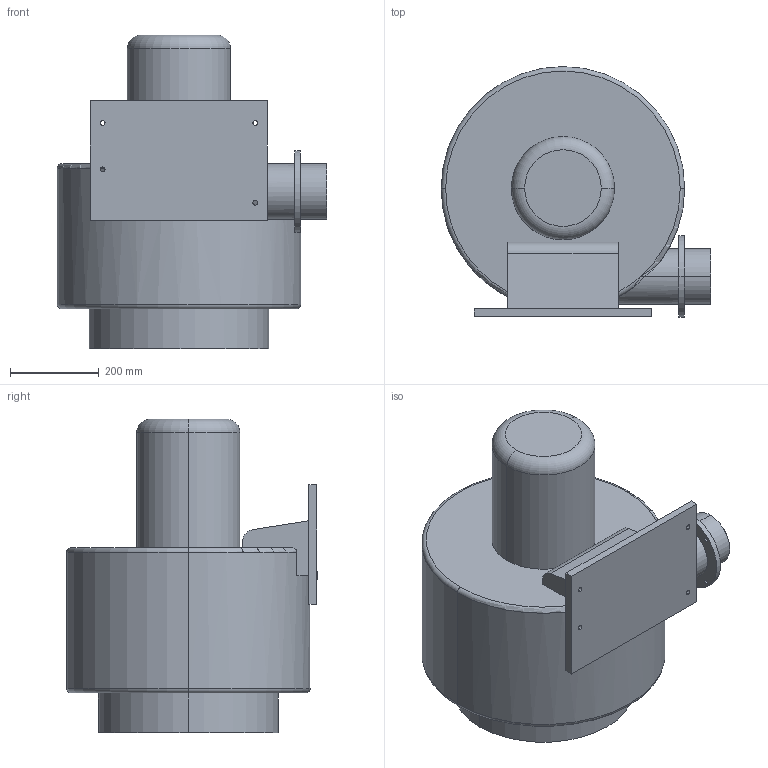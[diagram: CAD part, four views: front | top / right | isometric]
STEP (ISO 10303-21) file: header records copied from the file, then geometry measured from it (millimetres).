
FILE_DESCRIPTION (( 'STEP AP203' ), '1' );
FILE_NAME ('5500-125-4.STEP', '2019-05-09T03:27:21', ( 'User' ), ( 'www.dadighost.com' ), 'SwSTEP 2.0', 'SolidWorks 2014', '' );
FILE_SCHEMA (( 'CONFIG_CONTROL_DESIGN' ));
Length unit declared in the file: millimetre
Products named in the file (1): 5500-125-4
Bounding box: 609 x 566.5 x 708 mm (x, y, z)
Volume: 105814792.1 mm3; surface area: 1708540.2 mm2
Topology: 1 solids, 1 shells, 63 faces, 160 edges, 104 vertices
Faces by surface type: cylinder 33, plane 21, torus 9
Entity records: 2363 total; most frequent: CARTESIAN_POINT 675, DIRECTION 357, ORIENTED_EDGE 320, EDGE_CURVE 160, AXIS2_PLACEMENT_3D 145, VERTEX_POINT 104, EDGE_LOOP 84, CIRCLE 81
